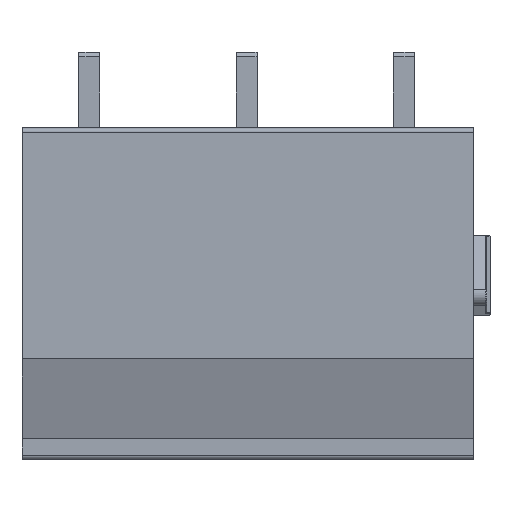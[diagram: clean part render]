
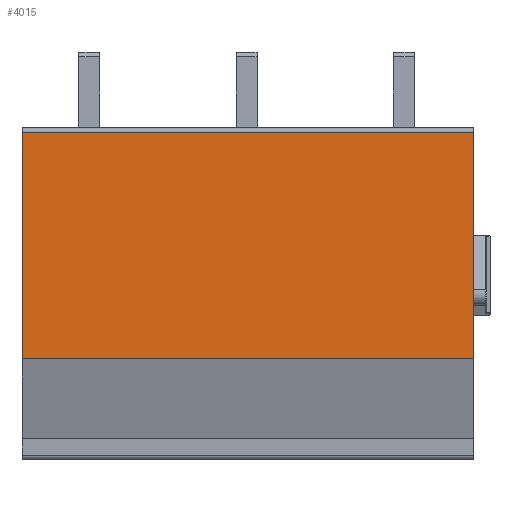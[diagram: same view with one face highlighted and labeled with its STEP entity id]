
A CAD part, left-side view. The second image highlights one B-rep face of the part: STEP entity #4015.
In plain terms, the highlighted planar face has unit normal (-1, 0, 0).
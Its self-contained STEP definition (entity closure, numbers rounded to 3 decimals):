
#1=DIRECTION('',(0.,0.,-1.));
#2=VECTOR('',#1,10.8);
#3=CARTESIAN_POINT('',(-1.2,-15.,15.6));
#4=LINE('',#3,#2);
#5=DIRECTION('',(0.,-1.,0.));
#6=VECTOR('',#5,21.5);
#7=CARTESIAN_POINT('',(-1.2,6.5,4.8));
#8=LINE('',#7,#6);
#229=DIRECTION('',(0.,1.,0.));
#230=VECTOR('',#229,21.5);
#231=CARTESIAN_POINT('',(-1.2,-15.,15.6));
#232=LINE('',#231,#230);
#237=DIRECTION('',(0.,0.,-1.));
#238=VECTOR('',#237,10.8);
#239=CARTESIAN_POINT('',(-1.2,6.5,15.6));
#240=LINE('',#239,#238);
#3067=CARTESIAN_POINT('',(-1.2,-15.,15.6));
#3068=CARTESIAN_POINT('',(-1.2,6.5,15.6));
#3069=VERTEX_POINT('',#3067);
#3070=VERTEX_POINT('',#3068);
#3071=CARTESIAN_POINT('',(-1.2,-15.,4.8));
#3072=VERTEX_POINT('',#3071);
#3812=CARTESIAN_POINT('',(-1.2,6.5,4.8));
#3813=VERTEX_POINT('',#3812);
#4000=CARTESIAN_POINT('',(-1.2,0.,4.8));
#4001=DIRECTION('',(-1.,0.,0.));
#4002=DIRECTION('',(0.,0.,1.));
#4003=AXIS2_PLACEMENT_3D('',#4000,#4001,#4002);
#4004=PLANE('',#4003);
#4006=ORIENTED_EDGE('',*,*,#4005,.F.);
#4008=ORIENTED_EDGE('',*,*,#4007,.F.);
#4010=ORIENTED_EDGE('',*,*,#4009,.F.);
#4012=ORIENTED_EDGE('',*,*,#4011,.T.);
#4013=EDGE_LOOP('',(#4006,#4008,#4010,#4012));
#4014=FACE_OUTER_BOUND('',#4013,.F.);
#4015=ADVANCED_FACE('',(#4014),#4004,.T.);
#4005=EDGE_CURVE('',#3813,#3072,#8,.T.);
#4007=EDGE_CURVE('',#3070,#3813,#240,.T.);
#4009=EDGE_CURVE('',#3069,#3070,#232,.T.);
#4011=EDGE_CURVE('',#3069,#3072,#4,.T.);
